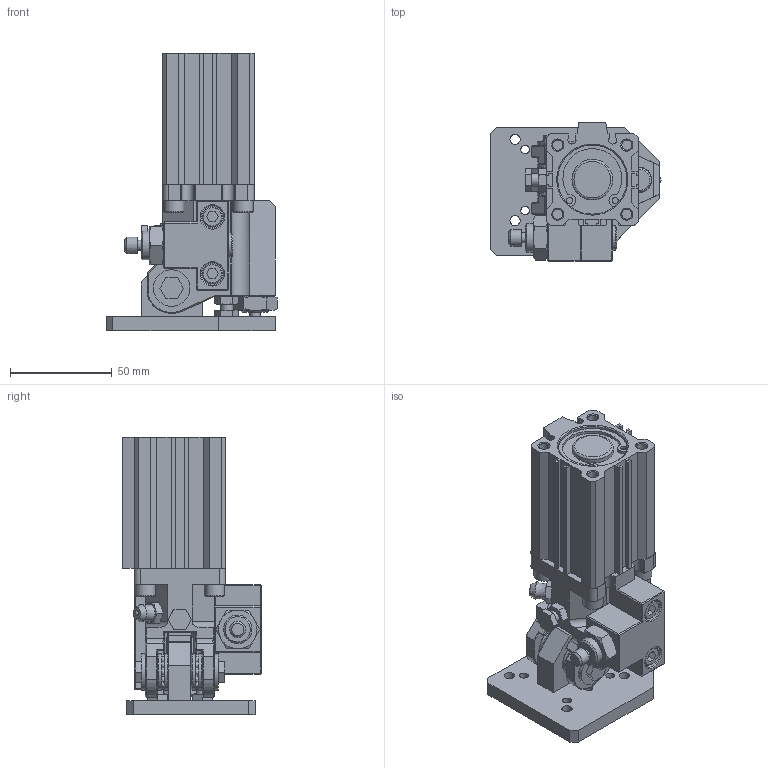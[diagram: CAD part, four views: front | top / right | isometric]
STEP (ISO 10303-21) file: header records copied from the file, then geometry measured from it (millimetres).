
FILE_DESCRIPTION(/* description */ (''),/* implementation_level */ '2;1');
FILE_NAME(/* name */ '气液增压器(SR200-06).dwg.stp',/* time_stamp */ '2024-08-05T15:15:52+08:00',/* author */ (''),/* organization */ (''),/* preprocessor_version */ 'ST-DEVELOPER v15',/* originating_system */ 'SIEMENS PLM Software NX 10.0',/* authorisation */ '');
FILE_SCHEMA (('AP203_CONFIGURATION_CONTROLLED_3D_DESIGN_OF_MECHANICAL_PARTS_AND_ASSEMBLIES_MIM_LF { 1 0 10303 403 2 1 2}'));
Length unit declared in the file: millimetre
Products named in the file (1): Admi2FAC224Bpxpt
Bounding box: 83.97 x 68 x 136.5 mm (x, y, z)
Volume: 267779.7 mm3; surface area: 85618.9 mm2
Topology: 33 solids, 39 shells, 925 faces, 2228 edges, 1392 vertices
Faces by surface type: plane 547, cylinder 184, cone 156, sphere 25, torus 9, bspline 4
Full cylindrical faces by diameter (mm): 1.5 x16, 2 x2, 2.5 x2, 3 x4, 4 x2, 4.2 x7, 5 x20, 6 x13, 6.5 x8, 7 x2, 8 x2, 8.6 x2, 10 x13, 11 x4, 12 x5, 12.2 x1, 12.5 x2, 13 x1, 13.6 x1, 14 x4, 14.5 x1, 16 x2, 18 x6, 20 x2, 20.5 x1, 33.8 x1, 34 x3, 36 x2
Entity records: 25279 total; most frequent: CARTESIAN_POINT 5058, DIRECTION 4247, ORIENTED_EDGE 3746, EDGE_CURVE 1873, AXIS2_PLACEMENT_3D 1639, VERTEX_POINT 1302, EDGE_LOOP 1249, LINE 969
